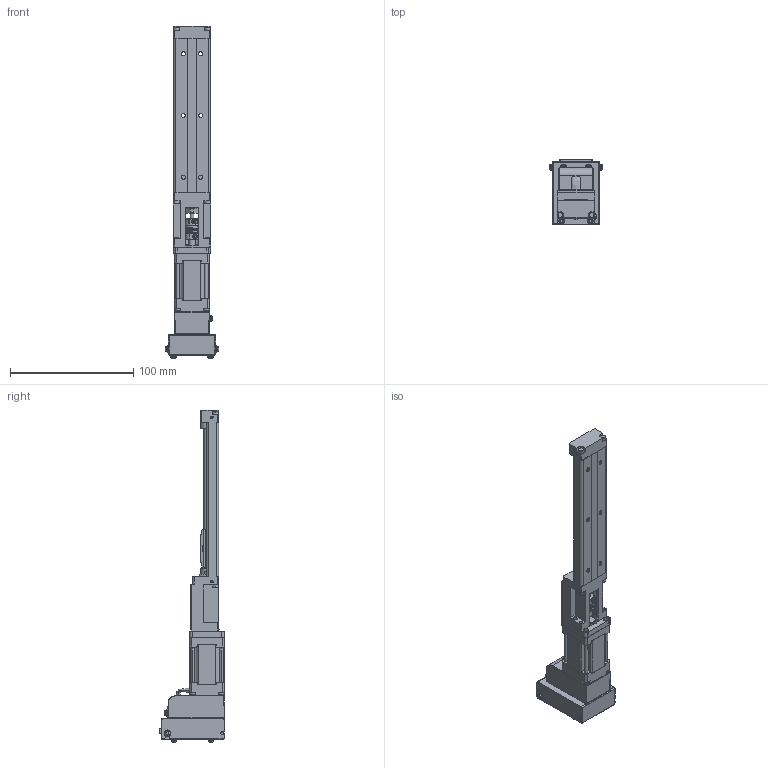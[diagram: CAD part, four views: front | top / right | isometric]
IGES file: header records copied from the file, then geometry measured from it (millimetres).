
Start section: SolidWorks IGES file using analytic representation for surfaces
Global section: file name: \\MYODRIVE\Public\CAD Files\Integrated-Actuators\PA-Series\3LatestWebUploads\PA15-A-01-075-X-00A0-11L30-X.IGS; native system: SolidWorks 2015; preprocessor: SolidWorks 2015; author: RENDER; date: 150106.091319; units: millimetre
Bounding box: 43.2 x 52.35 x 268.9 mm (x, y, z)
Surface area: 66780.3 mm2 (no closed solid volume)
Topology: 0 solids, 0 shells, 1731 faces, 20285 edges, 20259 vertices
Faces by surface type: bspline 1052, revolution 679
